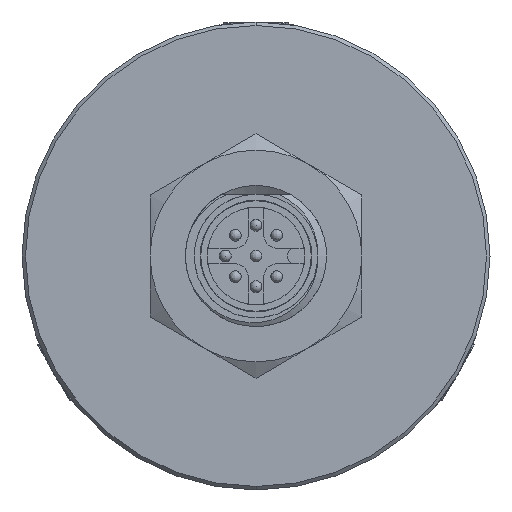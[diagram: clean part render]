
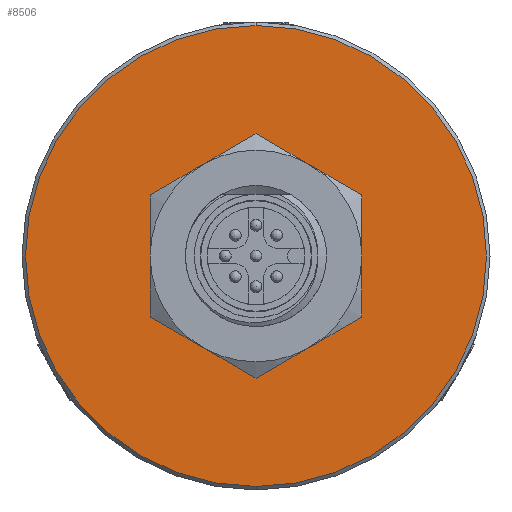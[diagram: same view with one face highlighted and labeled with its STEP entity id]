
A CAD part, left-side view. The second image highlights one B-rep face of the part: STEP entity #8506.
In plain terms, the highlighted planar face has unit normal (-1, 0, 0).
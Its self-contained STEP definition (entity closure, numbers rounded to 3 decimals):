
#203 = VERTEX_POINT ( 'NONE', #30787 ) ;
#1083 = VERTEX_POINT ( 'NONE', #7348 ) ;
#3607 = CIRCLE ( 'NONE', #30708, 19.6 ) ;
#3624 = EDGE_LOOP ( 'NONE', ( #4780, #21281 ) ) ;
#4780 = ORIENTED_EDGE ( 'NONE', *, *, #4968, .F. ) ;
#4968 = EDGE_CURVE ( 'NONE', #31410, #203, #31401, .T. ) ;
#5941 = DIRECTION ( 'NONE',  ( 0., 0., 1. ) ) ;
#6240 = DIRECTION ( 'NONE',  ( 0., 0., -1. ) ) ;
#6617 = ORIENTED_EDGE ( 'NONE', *, *, #11668, .T. ) ;
#7348 = CARTESIAN_POINT ( 'NONE',  ( -95.95, 0., 52.27 ) ) ;
#8506 = ADVANCED_FACE ( 'NONE', ( #17910, #21961 ), #18364, .F. ) ;
#9988 = DIRECTION ( 'NONE',  ( -1., 0., 0. ) ) ;
#10300 = DIRECTION ( 'NONE',  ( 1., 0., 0. ) ) ;
#11668 = EDGE_CURVE ( 'NONE', #25963, #1083, #13404, .T. ) ;
#12434 = EDGE_CURVE ( 'NONE', #203, #31410, #37574, .T. ) ;
#13404 = CIRCLE ( 'NONE', #25799, 19.6 ) ;
#14021 = CARTESIAN_POINT ( 'NONE',  ( -95.95, 0., 71.87 ) ) ;
#14341 = CARTESIAN_POINT ( 'NONE',  ( -95.95, 6., 71.87 ) ) ;
#16470 = DIRECTION ( 'NONE',  ( 0., 0., -1. ) ) ;
#17910 = FACE_OUTER_BOUND ( 'NONE', #21778, .T. ) ;
#18364 = PLANE ( 'NONE',  #23999 ) ;
#20480 = DIRECTION ( 'NONE',  ( -1., 0., 0. ) ) ;
#21281 = ORIENTED_EDGE ( 'NONE', *, *, #12434, .F. ) ;
#21778 = EDGE_LOOP ( 'NONE', ( #33751, #6617 ) ) ;
#21961 = FACE_BOUND ( 'NONE', #3624, .T. ) ;
#22575 = AXIS2_PLACEMENT_3D ( 'NONE', #14021, #9988, #5941 ) ;
#23999 = AXIS2_PLACEMENT_3D ( 'NONE', #14341, #10300, #6240 ) ;
#24420 = EDGE_CURVE ( 'NONE', #1083, #25963, #3607, .T. ) ;
#25799 = AXIS2_PLACEMENT_3D ( 'NONE', #38572, #34508, #30475 ) ;
#25963 = VERTEX_POINT ( 'NONE', #39194 ) ;
#26203 = DIRECTION ( 'NONE',  ( 0., 0., 1. ) ) ;
#28563 = CARTESIAN_POINT ( 'NONE',  ( -95.95, 0., 71.87 ) ) ;
#29021 = AXIS2_PLACEMENT_3D ( 'NONE', #34233, #30220, #26203 ) ;
#30220 = DIRECTION ( 'NONE',  ( -1., 0., 0. ) ) ;
#30475 = DIRECTION ( 'NONE',  ( 0., 0., -1. ) ) ;
#30708 = AXIS2_PLACEMENT_3D ( 'NONE', #28563, #20480, #16470 ) ;
#30787 = CARTESIAN_POINT ( 'NONE',  ( -95.95, 0., 65.87 ) ) ;
#31401 = CIRCLE ( 'NONE', #29021, 6. ) ;
#31410 = VERTEX_POINT ( 'NONE', #34620 ) ;
#33751 = ORIENTED_EDGE ( 'NONE', *, *, #24420, .T. ) ;
#34233 = CARTESIAN_POINT ( 'NONE',  ( -95.95, 0., 71.87 ) ) ;
#34508 = DIRECTION ( 'NONE',  ( -1., 0., 0. ) ) ;
#34620 = CARTESIAN_POINT ( 'NONE',  ( -95.95, 0., 77.87 ) ) ;
#37574 = CIRCLE ( 'NONE', #22575, 6. ) ;
#38572 = CARTESIAN_POINT ( 'NONE',  ( -95.95, 0., 71.87 ) ) ;
#39194 = CARTESIAN_POINT ( 'NONE',  ( -95.95, 0., 91.47 ) ) ;
